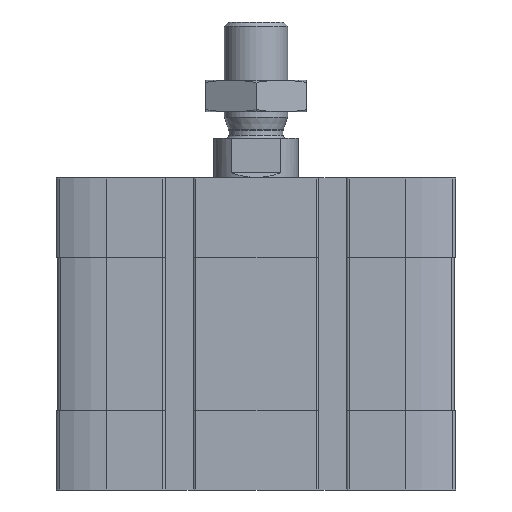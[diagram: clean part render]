
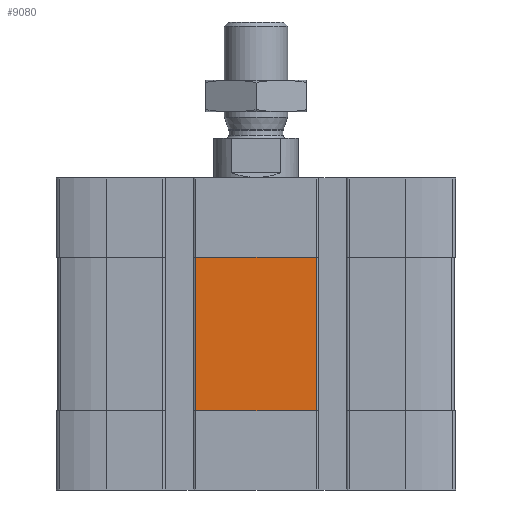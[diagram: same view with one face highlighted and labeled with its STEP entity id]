
A CAD part, front view. The second image highlights one B-rep face of the part: STEP entity #9080.
In plain terms, the highlighted planar face has unit normal (0, -1, 0).
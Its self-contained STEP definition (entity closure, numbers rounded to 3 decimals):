
#188 = LINE ( 'NONE', #15772, #6400 ) ;
#1246 = VECTOR ( 'NONE', #14929, 1000. ) ;
#1489 = CARTESIAN_POINT ( 'NONE',  ( 0., -37.5, -15. ) ) ;
#1857 = CARTESIAN_POINT ( 'NONE',  ( -11.4, -37.5, -44. ) ) ;
#3115 = VECTOR ( 'NONE', #6471, 1000. ) ;
#3410 = CARTESIAN_POINT ( 'NONE',  ( 11.4, -37.5, -44. ) ) ;
#3699 = EDGE_CURVE ( 'NONE', #16081, #10502, #13515, .T. ) ;
#3769 = VECTOR ( 'NONE', #8034, 1000. ) ;
#4342 = PLANE ( 'NONE',  #12789 ) ;
#4867 = EDGE_LOOP ( 'NONE', ( #5446, #14943, #15404, #8848 ) ) ;
#5444 = CARTESIAN_POINT ( 'NONE',  ( -11.4, -37.5, -44. ) ) ;
#5446 = ORIENTED_EDGE ( 'NONE', *, *, #9597, .T. ) ;
#5578 = DIRECTION ( 'NONE',  ( 0., 0., -1. ) ) ;
#6400 = VECTOR ( 'NONE', #7100, 1000. ) ;
#6471 = DIRECTION ( 'NONE',  ( -1., 0., 0. ) ) ;
#6738 = LINE ( 'NONE', #15469, #3769 ) ;
#7100 = DIRECTION ( 'NONE',  ( 0., 0., -1. ) ) ;
#7203 = EDGE_CURVE ( 'NONE', #10502, #13546, #188, .T. ) ;
#7620 = CARTESIAN_POINT ( 'NONE',  ( 11.4, -37.5, -15. ) ) ;
#8034 = DIRECTION ( 'NONE',  ( 0., 0., 1. ) ) ;
#8178 = VERTEX_POINT ( 'NONE', #3410 ) ;
#8848 = ORIENTED_EDGE ( 'NONE', *, *, #7203, .T. ) ;
#9080 = ADVANCED_FACE ( 'NONE', ( #12450 ), #4342, .T. ) ;
#9597 = EDGE_CURVE ( 'NONE', #13546, #8178, #11274, .T. ) ;
#10502 = VERTEX_POINT ( 'NONE', #12118 ) ;
#11274 = LINE ( 'NONE', #13707, #1246 ) ;
#12118 = CARTESIAN_POINT ( 'NONE',  ( -11.4, -37.5, -15. ) ) ;
#12450 = FACE_OUTER_BOUND ( 'NONE', #4867, .T. ) ;
#12579 = EDGE_CURVE ( 'NONE', #8178, #16081, #6738, .T. ) ;
#12789 = AXIS2_PLACEMENT_3D ( 'NONE', #1857, #13158, #5578 ) ;
#13158 = DIRECTION ( 'NONE',  ( 0., -1., 0. ) ) ;
#13515 = LINE ( 'NONE', #1489, #3115 ) ;
#13546 = VERTEX_POINT ( 'NONE', #5444 ) ;
#13707 = CARTESIAN_POINT ( 'NONE',  ( -11.4, -37.5, -44. ) ) ;
#14929 = DIRECTION ( 'NONE',  ( 1., 0., 0. ) ) ;
#14943 = ORIENTED_EDGE ( 'NONE', *, *, #12579, .T. ) ;
#15404 = ORIENTED_EDGE ( 'NONE', *, *, #3699, .T. ) ;
#15469 = CARTESIAN_POINT ( 'NONE',  ( 11.4, -37.5, -44. ) ) ;
#15772 = CARTESIAN_POINT ( 'NONE',  ( -11.4, -37.5, -44. ) ) ;
#16081 = VERTEX_POINT ( 'NONE', #7620 ) ;
